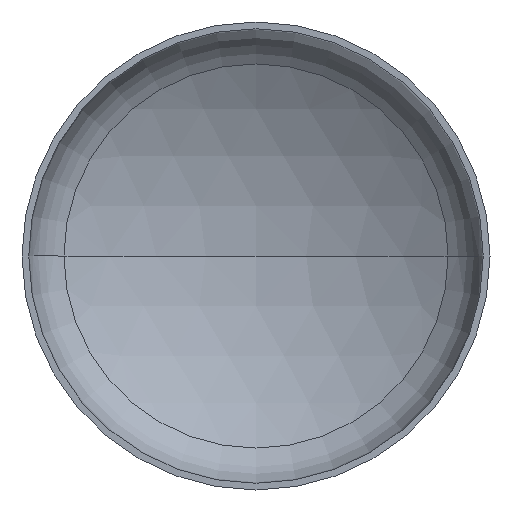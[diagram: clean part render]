
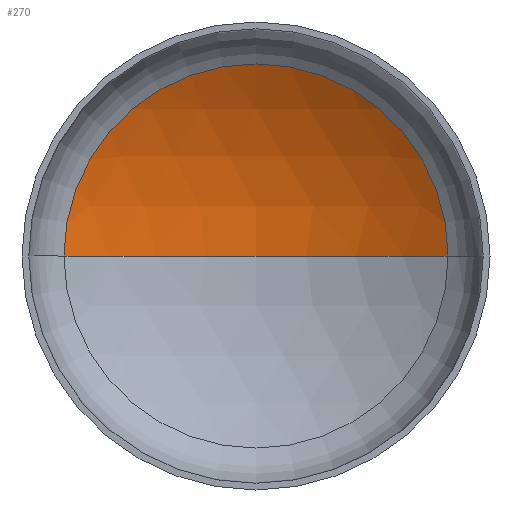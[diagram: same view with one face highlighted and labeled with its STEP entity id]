
A CAD part, front view. The second image highlights one B-rep face of the part: STEP entity #270.
In plain terms, the highlighted spherical face has radius 2720 mm.
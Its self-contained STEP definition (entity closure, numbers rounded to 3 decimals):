
#10 = ORIENTED_EDGE ( 'NONE', *, *, #374, .T. ) ;
#12 = AXIS2_PLACEMENT_3D ( 'NONE', #190, #167, #195 ) ;
#13 = EDGE_LOOP ( 'NONE', ( #25, #10, #131 ) ) ;
#23 = AXIS2_PLACEMENT_3D ( 'NONE', #209, #203, #206 ) ;
#25 = ORIENTED_EDGE ( 'NONE', *, *, #359, .F. ) ;
#39 = VERTEX_POINT ( 'NONE', #283 ) ;
#49 = CIRCLE ( 'NONE', #23, 2720. ) ;
#59 = AXIS2_PLACEMENT_3D ( 'NONE', #247, #208, #260 ) ;
#77 = AXIS2_PLACEMENT_3D ( 'NONE', #261, #264, #257 ) ;
#86 = SPHERICAL_SURFACE ( 'NONE', #59, 2720. ) ;
#105 = CARTESIAN_POINT ( 'NONE',  ( 0., 985.816, 0. ) ) ;
#131 = ORIENTED_EDGE ( 'NONE', *, *, #134, .T. ) ;
#134 = EDGE_CURVE ( 'NONE', #39, #159, #385, .T. ) ;
#154 = CIRCLE ( 'NONE', #12, 2720. ) ;
#157 = VERTEX_POINT ( 'NONE', #105 ) ;
#159 = VERTEX_POINT ( 'NONE', #281 ) ;
#167 = DIRECTION ( 'NONE',  ( 0., 0., -1. ) ) ;
#190 = CARTESIAN_POINT ( 'NONE',  ( 0., -1734.184, 0. ) ) ;
#195 = DIRECTION ( 'NONE',  ( -1., 0., 0. ) ) ;
#203 = DIRECTION ( 'NONE',  ( 0., 0., 1. ) ) ;
#206 = DIRECTION ( 'NONE',  ( 1., 0., 0. ) ) ;
#208 = DIRECTION ( 'NONE',  ( 0., 0., -1. ) ) ;
#209 = CARTESIAN_POINT ( 'NONE',  ( 0., -1734.184, 0. ) ) ;
#247 = CARTESIAN_POINT ( 'NONE',  ( 0., -1734.184, 0. ) ) ;
#257 = DIRECTION ( 'NONE',  ( 1., 0., 0. ) ) ;
#260 = DIRECTION ( 'NONE',  ( -1., 0., 0. ) ) ;
#261 = CARTESIAN_POINT ( 'NONE',  ( 0., 600.659, 0. ) ) ;
#264 = DIRECTION ( 'NONE',  ( 0., -1., 0. ) ) ;
#270 = ADVANCED_FACE ( 'NONE', ( #286 ), #86, .F. ) ;
#281 = CARTESIAN_POINT ( 'NONE',  ( -1395.317, 600.659, 0. ) ) ;
#283 = CARTESIAN_POINT ( 'NONE',  ( 1395.317, 600.659, 0. ) ) ;
#286 = FACE_OUTER_BOUND ( 'NONE', #13, .T. ) ;
#359 = EDGE_CURVE ( 'NONE', #157, #159, #49, .T. ) ;
#374 = EDGE_CURVE ( 'NONE', #157, #39, #154, .T. ) ;
#385 = CIRCLE ( 'NONE', #77, 1395.317 ) ;
